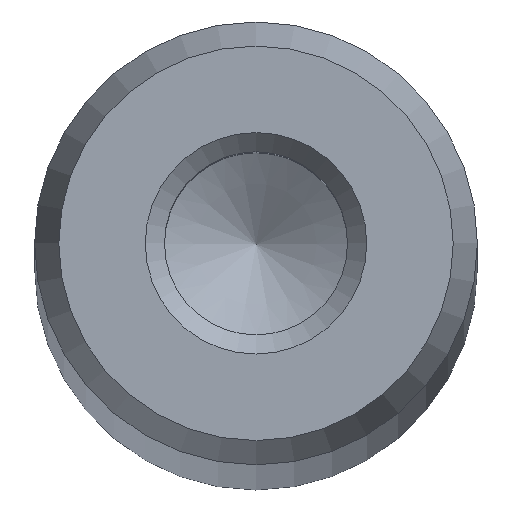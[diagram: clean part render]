
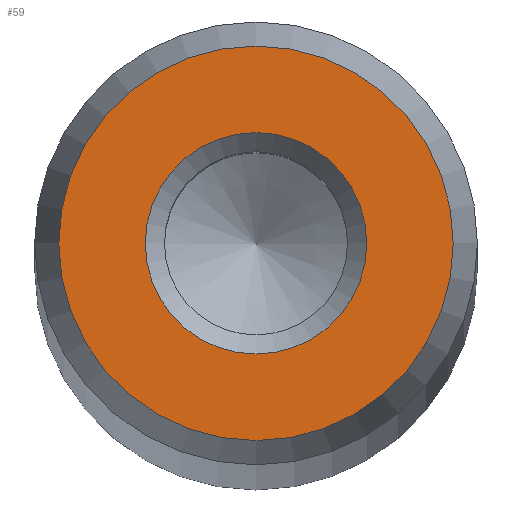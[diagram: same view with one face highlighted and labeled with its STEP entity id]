
A CAD part, top view. The second image highlights one B-rep face of the part: STEP entity #59.
In plain terms, the highlighted planar face has unit normal (0, 0, 1).
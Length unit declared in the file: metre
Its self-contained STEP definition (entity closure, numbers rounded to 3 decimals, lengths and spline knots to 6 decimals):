
#59 = ADVANCED_FACE( '', ( #124, #125 ), #126, .T. );
#124 = FACE_OUTER_BOUND( '', #183, .T. );
#125 = FACE_BOUND( '', #184, .T. );
#126 = PLANE( '', #185 );
#183 = EDGE_LOOP( '', ( #258 ) );
#184 = EDGE_LOOP( '', ( #259 ) );
#185 = AXIS2_PLACEMENT_3D( '', #260, #261, #262 );
#258 = ORIENTED_EDGE( '', *, *, #287, .T. );
#259 = ORIENTED_EDGE( '', *, *, #290, .T. );
#260 = CARTESIAN_POINT( '', ( 0., 0., 0.327 ) );
#261 = DIRECTION( '', ( 0., 0., 1. ) );
#262 = DIRECTION( '', ( 1., 0., 0. ) );
#287 = EDGE_CURVE( '', #320, #320, #321, .T. );
#290 = EDGE_CURVE( '', #325, #325, #326, .T. );
#320 = VERTEX_POINT( '', #357 );
#321 = CIRCLE( '', #358, 0.004454 );
#325 = VERTEX_POINT( '', #362 );
#326 = CIRCLE( '', #363, 0.0025 );
#357 = CARTESIAN_POINT( '', ( 0.004454, 0., 0.327 ) );
#358 = AXIS2_PLACEMENT_3D( '', #394, #395, #396 );
#362 = CARTESIAN_POINT( '', ( 0.0025, 0., 0.327 ) );
#363 = AXIS2_PLACEMENT_3D( '', #400, #401, #402 );
#394 = CARTESIAN_POINT( '', ( 0., 0., 0.327 ) );
#395 = DIRECTION( '', ( 0., 0., 1. ) );
#396 = DIRECTION( '', ( 1., 0., 0. ) );
#400 = CARTESIAN_POINT( '', ( 0., 0., 0.327 ) );
#401 = DIRECTION( '', ( 0., 0., -1. ) );
#402 = DIRECTION( '', ( 1., 0., 0. ) );
